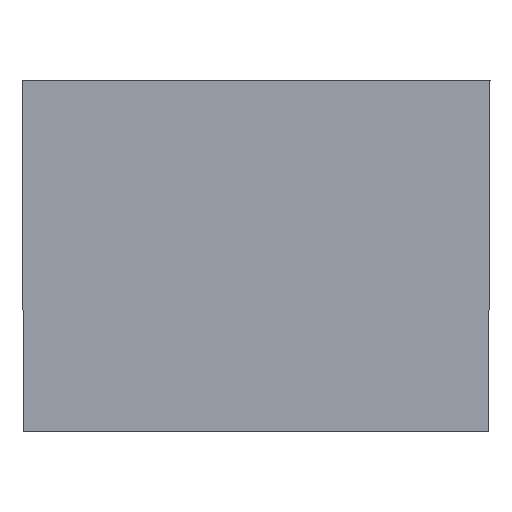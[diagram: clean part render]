
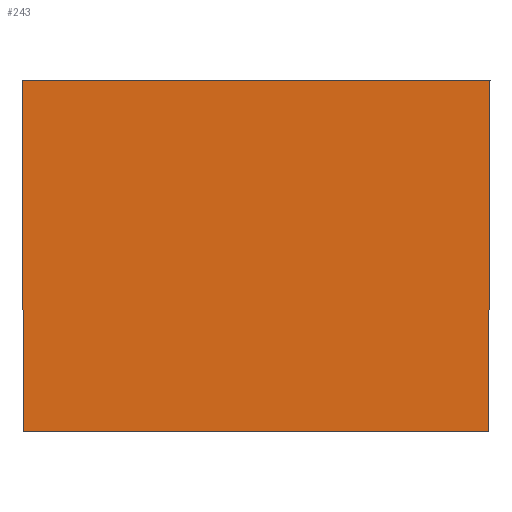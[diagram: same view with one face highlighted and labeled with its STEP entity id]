
A CAD part, left-side view. The second image highlights one B-rep face of the part: STEP entity #243.
In plain terms, the highlighted planar face has unit normal (-1, 0, -0.004).
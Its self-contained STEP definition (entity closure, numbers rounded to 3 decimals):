
#204=CARTESIAN_POINT('',(-12.5,10.,0.0));
#205=DIRECTION('',(-1.,0.,-0.004));
#206=DIRECTION('',(0.0,1.0,0.0));
#207=AXIS2_PLACEMENT_3D('',#204,#205,#206);
#208=PLANE('',#207);
#209=CARTESIAN_POINT('',(-12.435,9.935,-15.0));
#210=VERTEX_POINT('',#209);
#211=CARTESIAN_POINT('',(-12.435,-9.935,-15.0));
#212=VERTEX_POINT('',#211);
#213=CARTESIAN_POINT('',(-12.435,9.935,-15.0));
#214=DIRECTION('',(0.0,-1.0,0.0));
#215=VECTOR('',#214,19.869);
#216=LINE('',#213,#215);
#217=EDGE_CURVE('',#210,#212,#216,.T.);
#218=ORIENTED_EDGE('',*,*,#217,.T.);
#219=CARTESIAN_POINT('',(-12.5,-10.,0.0));
#220=VERTEX_POINT('',#219);
#221=CARTESIAN_POINT('',(-12.5,-10.,0.));
#222=DIRECTION('',(0.004,0.004,-1.));
#223=VECTOR('',#222,15.);
#224=LINE('',#221,#223);
#225=EDGE_CURVE('',#220,#212,#224,.T.);
#226=ORIENTED_EDGE('',*,*,#225,.F.);
#227=CARTESIAN_POINT('',(-12.5,10.,0.0));
#228=VERTEX_POINT('',#227);
#229=CARTESIAN_POINT('',(-12.5,-10.,0.0));
#230=DIRECTION('',(0.0,1.0,0.0));
#231=VECTOR('',#230,20.);
#232=LINE('',#229,#231);
#233=EDGE_CURVE('',#220,#228,#232,.T.);
#234=ORIENTED_EDGE('',*,*,#233,.T.);
#235=CARTESIAN_POINT('',(-12.5,10.,0.0));
#236=DIRECTION('',(0.004,-0.004,-1.));
#237=VECTOR('',#236,15.);
#238=LINE('',#235,#237);
#239=EDGE_CURVE('',#228,#210,#238,.T.);
#240=ORIENTED_EDGE('',*,*,#239,.T.);
#241=EDGE_LOOP('',(#218,#226,#234,#240));
#242=FACE_OUTER_BOUND('',#241,.T.);
#243=ADVANCED_FACE('',(#242),#208,.T.);
